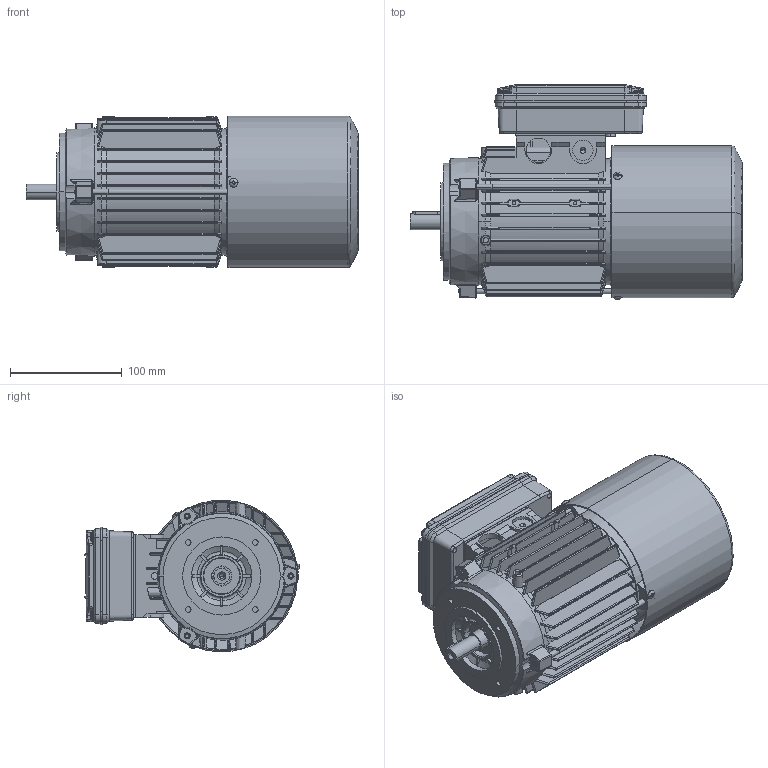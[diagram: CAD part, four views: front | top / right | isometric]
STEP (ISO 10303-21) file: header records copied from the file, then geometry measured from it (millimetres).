
FILE_DESCRIPTION (( 'STEP AP214' ), '1' );
FILE_NAME ('M14CC0011.STEP', '2019-01-09T16:48:22', ( '' ), ( '' ), 'SwSTEP 2.0', 'SolidWorks 2018', '' );
FILE_SCHEMA (( 'AUTOMOTIVE_DESIGN' ));
Length unit declared in the file: millimetre
Products named in the file (15): Vite per coperchio morsettiera; Coperchio per Scatola per Morsettiera Doppia 63-71-80; Scatola per Morsettiera Doppia 63-71-80; Vite testa rotonda M3; Scudo a Flangia B14 BA-BM 71 - DBAC0194; Tirante BM 71; Cuffia BM 71 - DBBK0097; Guarnizione Doppia Scatola gr. 63-71-80 - DBAM0094; Scudo Lato Freno P1 BM 71 NT - DBCK0207; Albero BA 71; Chiavetta 71; Carcassa 71 B5; M14CC0011; Scatola per Morsettiera Doppia 63-71-80 - Completa; Guarnizione Scatola Singola 63-71-80
Assembly tree (21 placements, depth 3):
  M14CC0011
    Carcassa 71 B5
    Chiavetta 71
    Albero BA 71
    Scudo Lato Freno P1 BM 71 NT - DBCK0207
    Cuffia BM 71 - DBBK0097
    Tirante BM 71  x3
    Scudo a Flangia B14 BA-BM 71 - DBAC0194
    Vite testa rotonda M3  x3
    Scatola per Morsettiera Doppia 63-71-80 - Completa
      Scatola per Morsettiera Doppia 63-71-80
      Coperchio per Scatola per Morsettiera Doppia 63-71-80
      Vite per coperchio morsettiera  x4
      Guarnizione Doppia Scatola gr. 63-71-80 - DBAM0094
      Guarnizione Scatola Singola 63-71-80
Bounding box: 297.5 x 192.68 x 135.81 mm (x, y, z)
Volume: 640461 mm3; surface area: 511282.3 mm2
Topology: 23 solids, 23 shells, 3130 faces, 8425 edges, 5264 vertices
Faces by surface type: cylinder 1097, plane 1023, bspline 404, torus 378, cone 214, sphere 14
Entity records: 103397 total; most frequent: CARTESIAN_POINT 35303, ORIENTED_EDGE 14966, DIRECTION 13075, EDGE_CURVE 7483, AXIS2_PLACEMENT_3D 4985, VERTEX_POINT 4766, EDGE_LOOP 3123, VECTOR 3105
